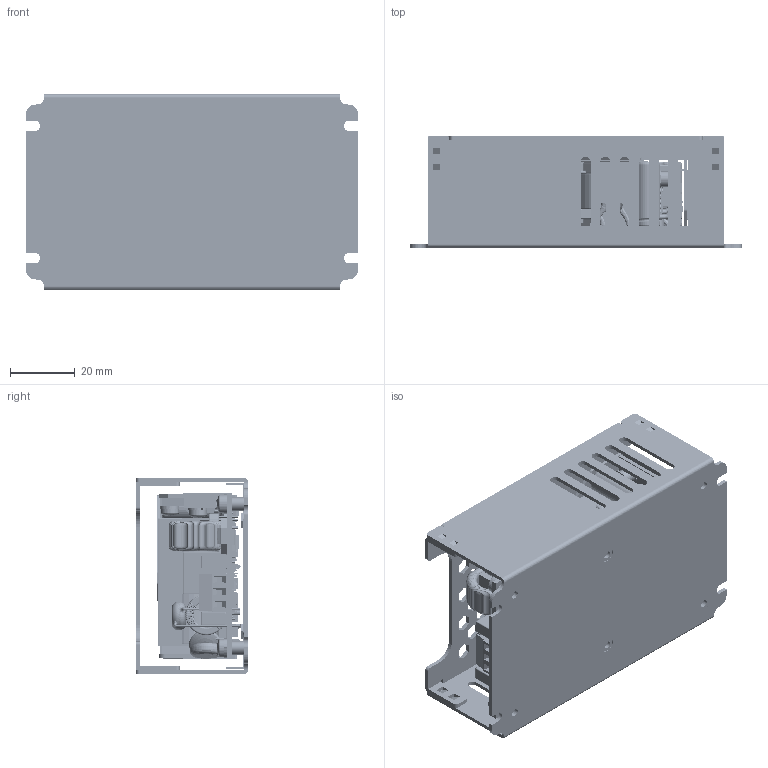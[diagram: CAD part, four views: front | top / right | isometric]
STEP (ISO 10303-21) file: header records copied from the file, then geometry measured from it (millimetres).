
FILE_DESCRIPTION (( 'STEP AP214' ), '1' );
FILE_NAME ('TPP40(Multi).STEP', '2020-07-14T08:14:58', ( 'user' ), ( '' ), 'SwSTEP 2.0', 'SolidWorks 2016', '' );
FILE_SCHEMA (( 'AUTOMOTIVE_DESIGN' ));
Length unit declared in the file: millimetre
Products named in the file (2): TPP40(Multi)
Bounding box: 102.44 x 34.54 x 60.45 mm (x, y, z)
Volume: 66893.5 mm3; surface area: 103181.2 mm2
Topology: 119 solids, 234 shells, 11299 faces, 27670 edges, 17012 vertices
Faces by surface type: plane 5242, cylinder 3536, torus 2257, bspline 115, sphere 78, cone 71
Full cylindrical faces by diameter (mm): 0.05 x22, 0.08 x1, 0.1 x23, 0.127 x2, 0.136 x1, 0.2 x10, 0.23 x12, 0.245 x2, 0.254 x2, 0.3 x1, 0.4 x5, 0.406 x32, 0.432 x3, 0.5 x7, 0.508 x4, 0.6 x37, 0.61 x4, 0.711 x2, 0.762 x4, 0.8 x13, 0.813 x24, 0.914 x4, 1.016 x32, 1.118 x3, 1.219 x10, 1.27 x4, 1.321 x6, 1.397 x1, 1.422 x2, 1.5 x2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
Entity records: 471876 total; most frequent: CARTESIAN_POINT 88476, ORIENTED_EDGE 53300, DIRECTION 52522, EDGE_CURVE 26650, AXIS2_PLACEMENT_3D 18972, VERTEX_POINT 16708, LINE 14578, VECTOR 14578
